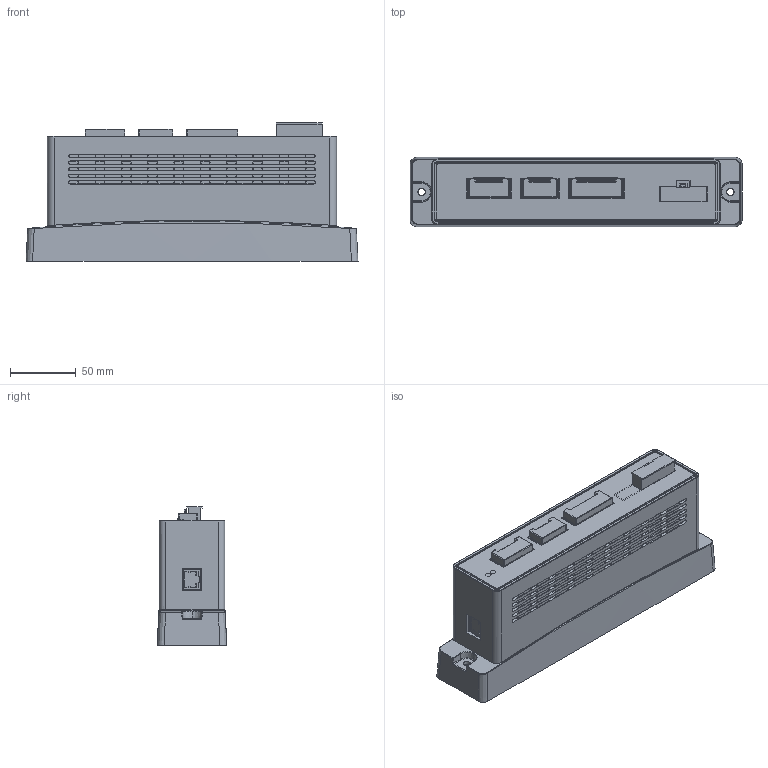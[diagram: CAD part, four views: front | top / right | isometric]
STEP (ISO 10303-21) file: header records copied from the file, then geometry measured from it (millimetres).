
FILE_DESCRIPTION (( 'STEP AP203' ), '1' );
FILE_NAME ('HBCU200 WZ.STEP', '2023-05-20T06:53:31', ( 'Sky123.Org' ), ( 'Sky123.Org' ), 'SwSTEP 2.0', 'SolidWorks 2018', '' );
FILE_SCHEMA (( 'CONFIG_CONTROL_DESIGN' ));
Products named in the file (1): HBCU200 WZ
Bounding box: 252.62 x 53.15 x 105.3 mm (x, y, z)
Volume: 1096153.9 mm3; surface area: 137254.4 mm2
Topology: 10 solids, 14 shells, 3429 faces, 8356 edges, 5151 vertices
Faces by surface type: plane 2561, cylinder 449, cone 268, sphere 68, bspline 56, torus 27
Entity records: 100278 total; most frequent: CARTESIAN_POINT 19940, ORIENTED_EDGE 16608, DIRECTION 16297, EDGE_CURVE 8304, VECTOR 6601, LINE 6601, VERTEX_POINT 5145, AXIS2_PLACEMENT_3D 4848
